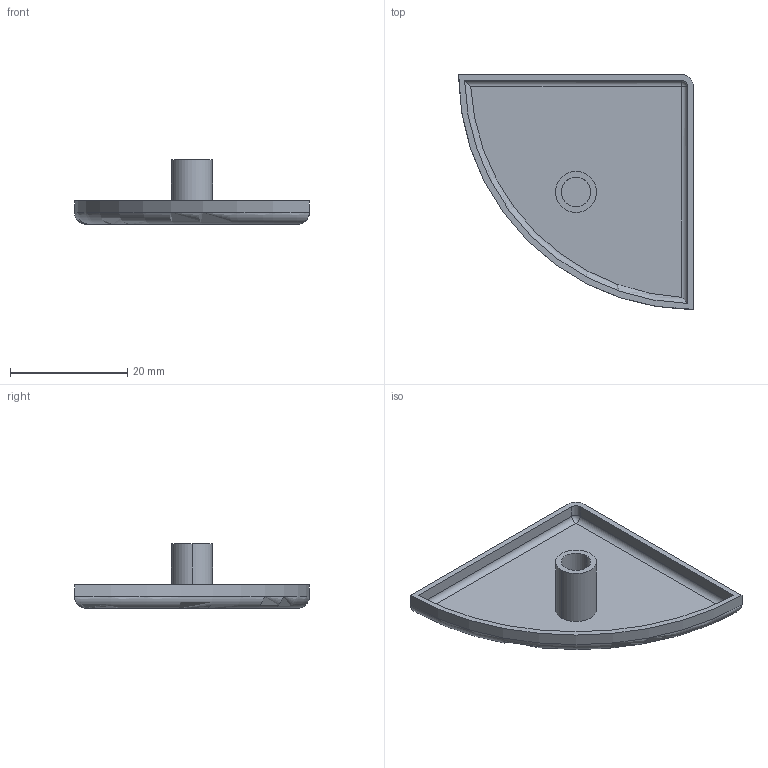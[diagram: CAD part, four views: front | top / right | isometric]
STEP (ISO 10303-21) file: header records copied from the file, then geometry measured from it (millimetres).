
FILE_DESCRIPTION (( 'STEP AP203' ), '1' );
FILE_NAME ('169-CE-CP-4040R.STEP', '2015-07-09T09:13:28', ( '' ), ( '' ), 'SwSTEP 2.0', 'SolidWorks 2013', '' );
FILE_SCHEMA (( 'CONFIG_CONTROL_DESIGN' ));
Length unit declared in the file: millimetre
Products named in the file (1): 169-CE-CP-4040R
Bounding box: 40 x 40 x 11 mm (x, y, z)
Volume: 1768.9 mm3; surface area: 3678.6 mm2
Topology: 1 solids, 1 shells, 25 faces, 52 edges, 30 vertices
Faces by surface type: cylinder 12, plane 9, sphere 2, torus 2
Entity records: 763 total; most frequent: CARTESIAN_POINT 154, DIRECTION 120, ORIENTED_EDGE 100, EDGE_CURVE 50, AXIS2_PLACEMENT_3D 48, VERTEX_POINT 30, EDGE_LOOP 28, ADVANCED_FACE 25
